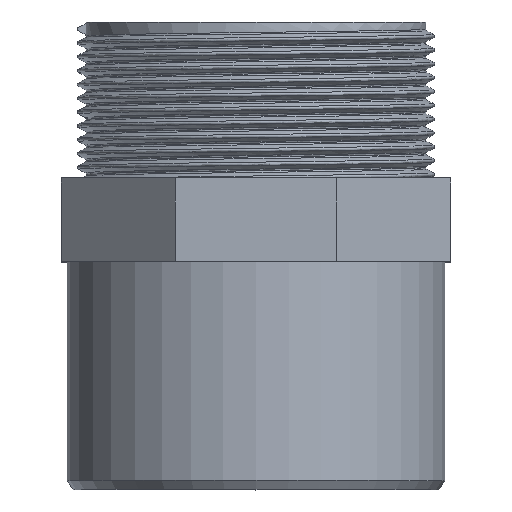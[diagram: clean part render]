
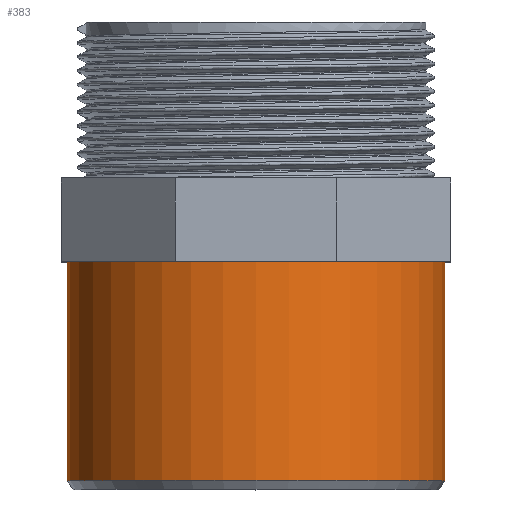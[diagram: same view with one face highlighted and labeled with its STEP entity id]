
A CAD part, top view. The second image highlights one B-rep face of the part: STEP entity #383.
In plain terms, the highlighted cylindrical face has radius 31.5 mm (diameter 63 mm), a full revolution.
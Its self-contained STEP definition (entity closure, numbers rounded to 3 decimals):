
#100=CYLINDRICAL_SURFACE('',#413,31.5);
#106=FACE_BOUND('',#145,.T.);
#117=FACE_OUTER_BOUND('',#144,.T.);
#144=EDGE_LOOP('',(#281));
#145=EDGE_LOOP('',(#282));
#179=CIRCLE('',#411,31.5);
#181=CIRCLE('',#414,31.5);
#192=VERTEX_POINT('',#543);
#194=VERTEX_POINT('',#548);
#228=EDGE_CURVE('',#192,#192,#179,.T.);
#230=EDGE_CURVE('',#194,#194,#181,.T.);
#281=ORIENTED_EDGE('',*,*,#230,.F.);
#282=ORIENTED_EDGE('',*,*,#228,.F.);
#383=ADVANCED_FACE('',(#117,#106),#100,.T.);
#411=AXIS2_PLACEMENT_3D('',#544,#448,#449);
#413=AXIS2_PLACEMENT_3D('',#547,#452,#453);
#414=AXIS2_PLACEMENT_3D('',#549,#454,#455);
#448=DIRECTION('center_axis',(0.,-1.,0.));
#449=DIRECTION('ref_axis',(-1.,0.,0.));
#452=DIRECTION('center_axis',(0.,-1.,0.));
#453=DIRECTION('ref_axis',(-1.,0.,0.));
#454=DIRECTION('center_axis',(0.,1.,0.));
#455=DIRECTION('ref_axis',(-1.,0.,0.));
#543=CARTESIAN_POINT('',(31.5,-43.5,0.));
#544=CARTESIAN_POINT('Origin',(0.,-43.5,0.));
#547=CARTESIAN_POINT('Origin',(0.,-7.,0.));
#548=CARTESIAN_POINT('',(31.5,-7.,0.));
#549=CARTESIAN_POINT('Origin',(0.,-7.,0.));
